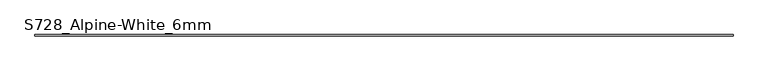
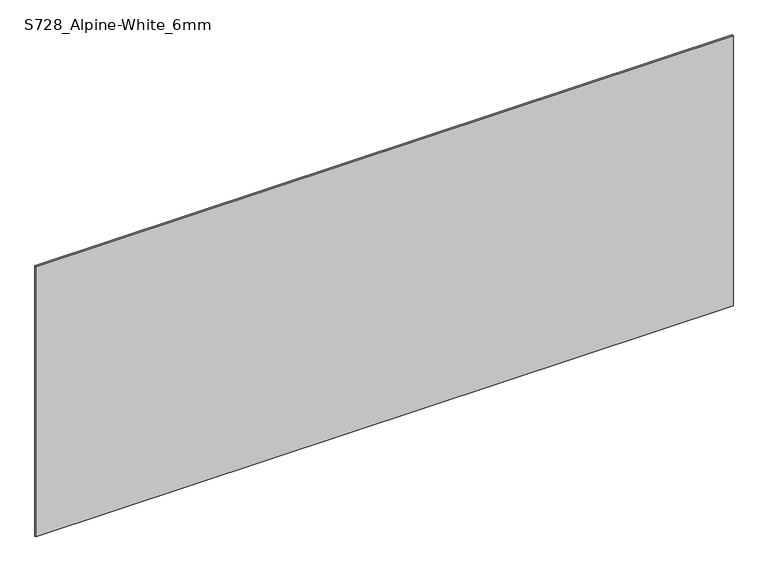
"""IFC4 building model written with IfcOpenShell, lengths in millimetres: plate geometry, Curtain-Panels_Outdoor-Material_HI-MACS_Solids : S728_Alpine-White_6mm."""

from ifc_helpers import new_model, si_unit, origin, origin_with_axes, place, context, project, spatial, polyline, outline, extrude, source, transform, mapped, element, save


def s728_alpine_white_6mm_dd70e469(model_context):
    return source(origin(), model_context, "Body", "SweptSolid", [
        extrude(outline(polyline([(1840.0, 3.0), (1840.0, -3.0), (-1840.0, -3.0), (-1840.0, 3.0), (1840.0, 3.0)])), origin_with_axes(), (0.0, 0.0, 1.0), 1507.8728994),
    ])


if __name__ == "__main__":
    model = new_model("IFC4")
    model_context = context("Model", 3, world=origin())
    ifc_project = project(units=[si_unit("LENGTHUNIT", "METRE", prefix="MILLI")], contexts=[model_context])
    site = spatial("IfcSite", under=ifc_project)
    building = spatial("IfcBuilding", under=site)
    placement = place(None, origin())
    s728_alpine_white_6mm_shape = s728_alpine_white_6mm_dd70e469(model_context)
    element("IfcPlate", 1, ObjectType="Curtain-Panels_Outdoor-Material_HI-MACS_Solids : S728_Alpine-White_6mm", at=placement, inside=building, context=model_context, shape_type="MappedRepresentation", body=[
        mapped(s728_alpine_white_6mm_shape, transform((0.0, 0.0, 0.0), x_axis=(1.0, 0.0, 0.0), y_axis=(0.0, 1.0, 0.0), z_axis=(0.0, 0.0, 1.0))),
    ])
    save(model, "model.ifc")
